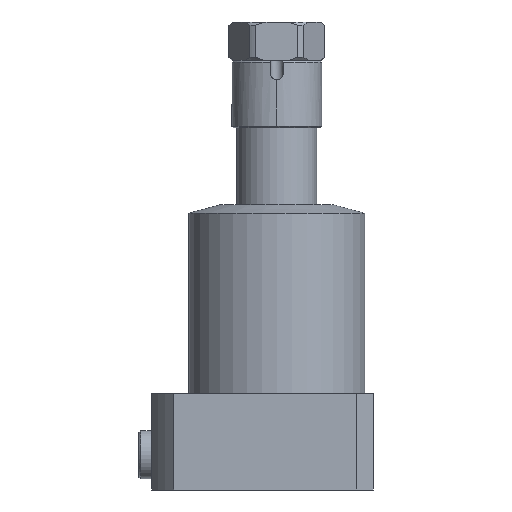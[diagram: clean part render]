
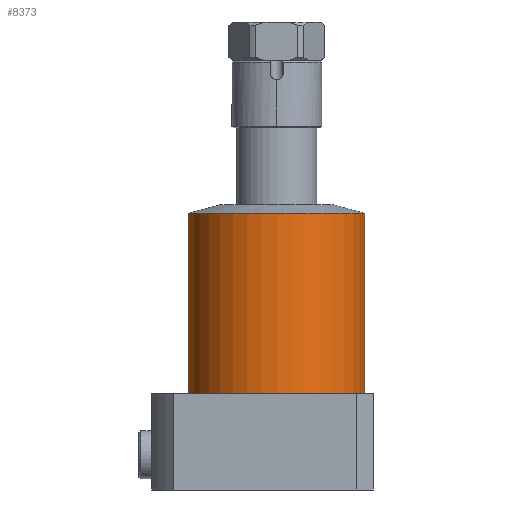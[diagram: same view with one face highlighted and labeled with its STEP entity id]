
A CAD part, front view. The second image highlights one B-rep face of the part: STEP entity #8373.
In plain terms, the highlighted cylindrical face has radius 27.5 mm (diameter 55 mm), a partial arc.
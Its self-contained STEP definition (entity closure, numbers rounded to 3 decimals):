
#352 = ORIENTED_EDGE ( 'NONE', *, *, #9495, .T. ) ;
#437 = DIRECTION ( 'NONE',  ( 0., 0., -1. ) ) ;
#453 = CARTESIAN_POINT ( 'NONE',  ( 27.5, 0., 86.321 ) ) ;
#821 = VERTEX_POINT ( 'NONE', #12923 ) ;
#2570 = CIRCLE ( 'NONE', #16063, 27.5 ) ;
#2651 = CIRCLE ( 'NONE', #15571, 27.5 ) ;
#2928 = VECTOR ( 'NONE', #437, 1000. ) ;
#3443 = CARTESIAN_POINT ( 'NONE',  ( 0., 0., 89. ) ) ;
#3618 = EDGE_LOOP ( 'NONE', ( #4300, #17452, #352, #14075 ) ) ;
#3808 = EDGE_CURVE ( 'NONE', #17636, #6967, #2651, .T. ) ;
#4300 = ORIENTED_EDGE ( 'NONE', *, *, #16816, .F. ) ;
#4977 = DIRECTION ( 'NONE',  ( 0., 0., 1. ) ) ;
#5116 = CYLINDRICAL_SURFACE ( 'NONE', #6931, 27.5 ) ;
#6043 = EDGE_CURVE ( 'NONE', #821, #15277, #2570, .T. ) ;
#6600 = LINE ( 'NONE', #11301, #2928 ) ;
#6626 = CARTESIAN_POINT ( 'NONE',  ( -27.5, 0., 30. ) ) ;
#6931 = AXIS2_PLACEMENT_3D ( 'NONE', #3443, #11696, #8667 ) ;
#6967 = VERTEX_POINT ( 'NONE', #453 ) ;
#7924 = DIRECTION ( 'NONE',  ( 0., 0., -1. ) ) ;
#8373 = ADVANCED_FACE ( 'NONE', ( #13320 ), #5116, .T. ) ;
#8667 = DIRECTION ( 'NONE',  ( -1., 0., 0. ) ) ;
#9495 = EDGE_CURVE ( 'NONE', #17636, #15277, #6600, .T. ) ;
#9832 = CARTESIAN_POINT ( 'NONE',  ( 27.5, 0., 89. ) ) ;
#11301 = CARTESIAN_POINT ( 'NONE',  ( -27.5, 0., 89. ) ) ;
#11696 = DIRECTION ( 'NONE',  ( 0., 0., -1. ) ) ;
#12634 = DIRECTION ( 'NONE',  ( 0., 0., -1. ) ) ;
#12923 = CARTESIAN_POINT ( 'NONE',  ( 27.5, 0., 30. ) ) ;
#13237 = CARTESIAN_POINT ( 'NONE',  ( 0., 0., 86.321 ) ) ;
#13320 = FACE_OUTER_BOUND ( 'NONE', #3618, .T. ) ;
#13673 = LINE ( 'NONE', #9832, #16948 ) ;
#13864 = CARTESIAN_POINT ( 'NONE',  ( -27.5, 0., 86.321 ) ) ;
#14075 = ORIENTED_EDGE ( 'NONE', *, *, #6043, .F. ) ;
#14623 = DIRECTION ( 'NONE',  ( -1., 0., 0. ) ) ;
#15277 = VERTEX_POINT ( 'NONE', #6626 ) ;
#15571 = AXIS2_PLACEMENT_3D ( 'NONE', #13237, #4977, #14623 ) ;
#16063 = AXIS2_PLACEMENT_3D ( 'NONE', #16218, #7924, #17621 ) ;
#16218 = CARTESIAN_POINT ( 'NONE',  ( 0., 0., 30. ) ) ;
#16816 = EDGE_CURVE ( 'NONE', #6967, #821, #13673, .T. ) ;
#16948 = VECTOR ( 'NONE', #12634, 1000. ) ;
#17452 = ORIENTED_EDGE ( 'NONE', *, *, #3808, .F. ) ;
#17621 = DIRECTION ( 'NONE',  ( -1., 0., 0. ) ) ;
#17636 = VERTEX_POINT ( 'NONE', #13864 ) ;
